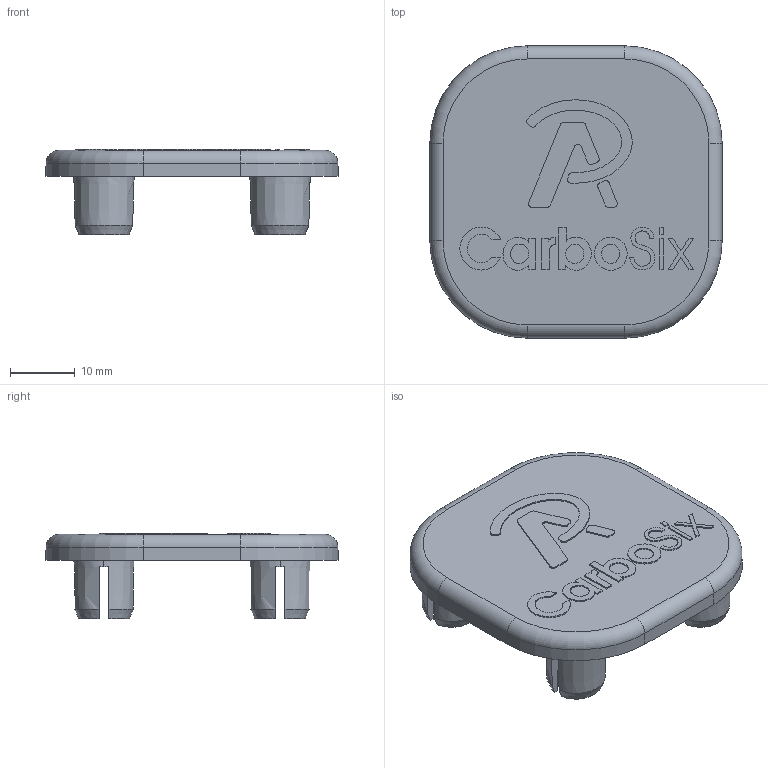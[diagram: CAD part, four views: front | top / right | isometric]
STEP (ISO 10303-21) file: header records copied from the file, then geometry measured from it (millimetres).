
FILE_DESCRIPTION (( 'STEP AP203' ), '1' );
FILE_NAME ('115.201.001.STEP', '2022-05-23T15:10:26', ( '' ), ( '' ), 'SwSTEP 2.0', 'SolidWorks 2021', '' );
FILE_SCHEMA (( 'CONFIG_CONTROL_DESIGN' ));
Length unit declared in the file: millimetre
Products named in the file (1): 115.201.001
Bounding box: 45 x 45 x 13.2 mm (x, y, z)
Volume: 6944.1 mm3; surface area: 6144.8 mm2
Topology: 1 solids, 1 shells, 388 faces, 1069 edges, 710 vertices
Faces by surface type: plane 283, bspline 42, cone 36, cylinder 23, torus 4
Entity records: 12908 total; most frequent: CARTESIAN_POINT 3182, ORIENTED_EDGE 2138, DIRECTION 1777, EDGE_CURVE 1069, LINE 775, VECTOR 775, VERTEX_POINT 710, AXIS2_PLACEMENT_3D 501
